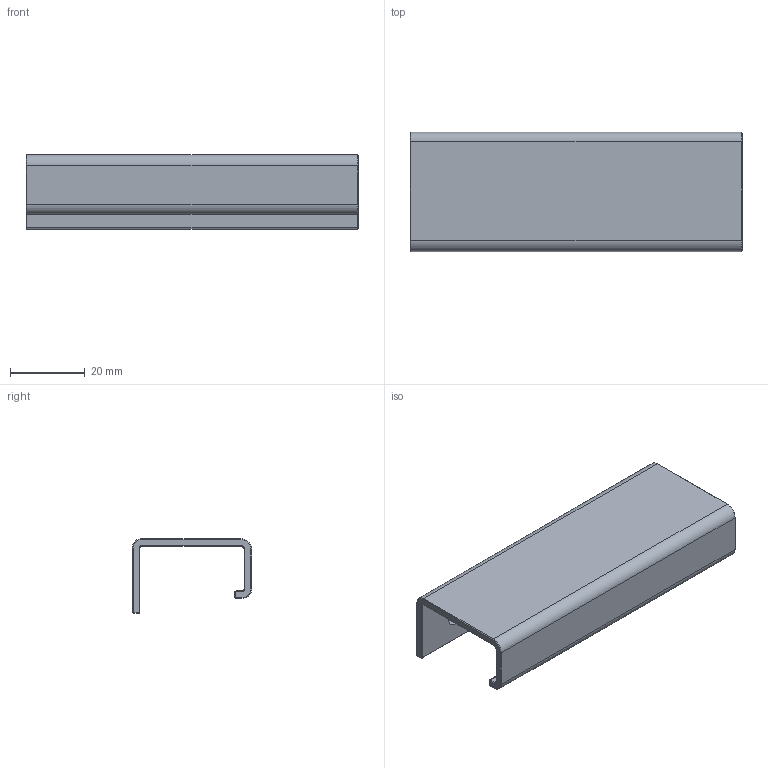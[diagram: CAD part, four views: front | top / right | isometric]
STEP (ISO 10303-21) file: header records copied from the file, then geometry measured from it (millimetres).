
FILE_DESCRIPTION(('Open CASCADE Model'),'2;1');
FILE_NAME('FL-LIP-89','2026-10-19T21:24:00',('Author'),('Open CASCADE'), 'Open CASCADE STEP processor 8.0','build123d','Unknown');
FILE_SCHEMA(('AUTOMOTIVE_DESIGN { 1 0 10303 214 1 1 1 1 }'));
Length unit declared in the file: millimetre
Products named in the file (2): FL-LIP-89; brass_FL-LIP89-18__e
Assembly tree (1 placements, depth 2):
  FL-LIP-89
    brass_FL-LIP89-18__e
Bounding box: 89 x 32 x 20 mm (x, y, z)
Volume: 11366.3 mm3; surface area: 11961.1 mm2
Topology: 1 solids, 1 shells, 64 faces, 146 edges, 84 vertices
Faces by surface type: plane 32, cone 20, cylinder 12
Full cylindrical faces by diameter (mm): 4.5 x2
Entity records: 3656 total; most frequent: CARTESIAN_POINT 764, DIRECTION 518, ORIENTED_EDGE 292, PCURVE 292, DEFINITIONAL_REPRESENTATION 292, LINE 290, VECTOR 290, EDGE_CURVE 146
